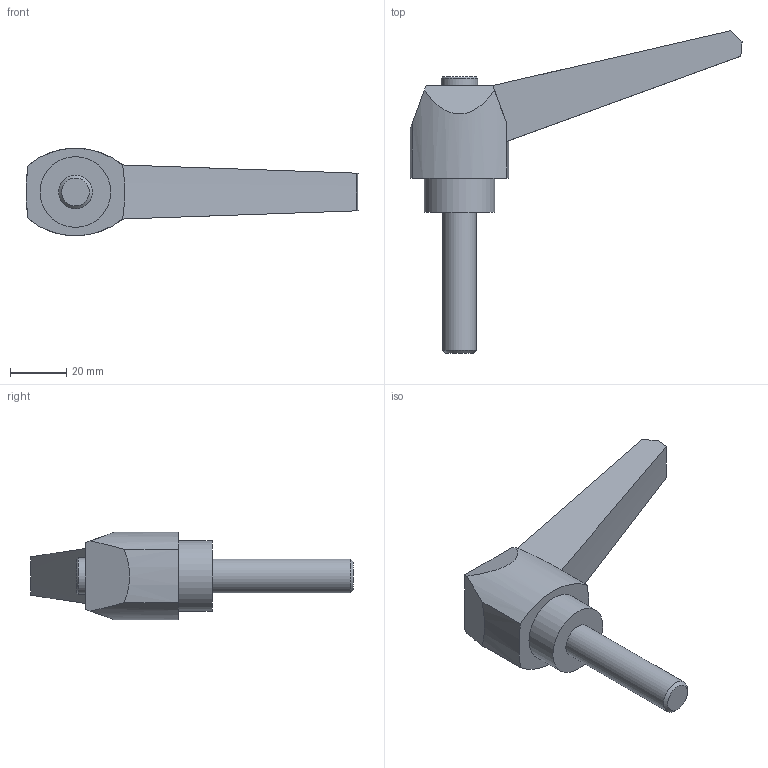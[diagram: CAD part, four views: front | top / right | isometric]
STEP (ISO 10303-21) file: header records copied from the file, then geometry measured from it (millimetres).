
FILE_DESCRIPTION( ( 'STEP AP203' ), '1' );
FILE_NAME( 'C:/Temp/Ganter_Step_05_03_2020/data/2_1/gn_500/gn_500_ms/Adjustable hand lever GN 500-100-M12-50-SW.stp', '2020-03-05T11:26:40', ( 'License CC BY-ND 4.0' ), ( 'CADENAS' ), ' ', 'PARTsolutions', ' ' );
FILE_SCHEMA( ( 'CONFIG_CONTROL_DESIGN' ) );
Length unit declared in the file: millimetre
Products named in the file (1): _Adjustable hand lever GN 500-100-M12-50-SW
Bounding box: 117.62 x 114.28 x 31 mm (x, y, z)
Volume: 62046.7 mm3; surface area: 13247.4 mm2
Topology: 1 solids, 1 shells, 24 faces, 56 edges, 37 vertices
Faces by surface type: plane 11, cylinder 7, cone 6
Full cylindrical faces by diameter (mm): 12 x1, 13 x1, 25 x1
Entity records: 709 total; most frequent: CARTESIAN_POINT 124, DIRECTION 118, ORIENTED_EDGE 100, EDGE_CURVE 50, AXIS2_PLACEMENT_3D 47, VERTEX_POINT 36, EDGE_LOOP 32, FACE_OUTER_BOUND 27
